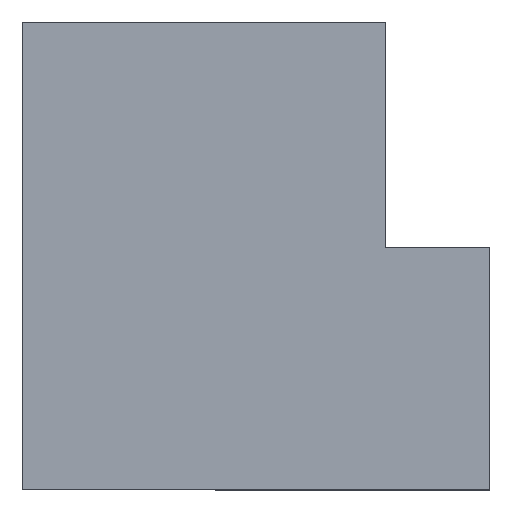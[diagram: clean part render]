
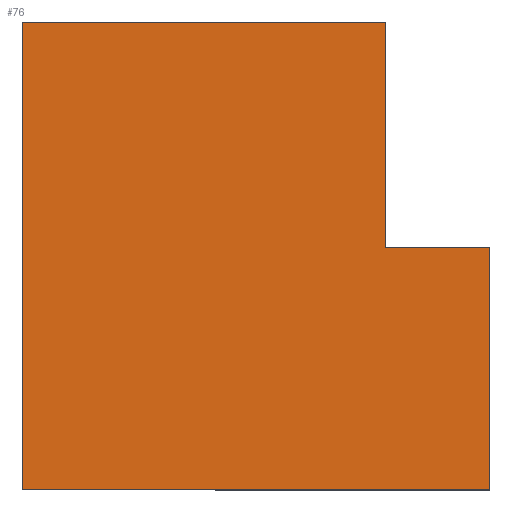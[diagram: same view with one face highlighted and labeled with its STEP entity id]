
A CAD part, top view. The second image highlights one B-rep face of the part: STEP entity #76.
In plain terms, the highlighted planar face has unit normal (0, 0, 1).
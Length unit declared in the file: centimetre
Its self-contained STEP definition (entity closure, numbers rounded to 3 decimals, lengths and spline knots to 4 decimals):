
#2 = EDGE_LOOP ( 'NONE', ( #174, #39, #261, #333, #250, #499 ) ) ;
#13 = LINE ( 'NONE', #164, #322 ) ;
#39 = ORIENTED_EDGE ( 'NONE', *, *, #142, .T. ) ;
#47 = CARTESIAN_POINT ( 'NONE',  ( 1000., 0., 1000. ) ) ;
#50 = PLANE ( 'NONE',  #394 ) ;
#66 = VECTOR ( 'NONE', #307, 100. ) ;
#76 = ADVANCED_FACE ( 'NONE', ( #480 ), #50, .T. ) ;
#81 = CARTESIAN_POINT ( 'NONE',  ( 1000., 518.5311, 1000. ) ) ;
#82 = CARTESIAN_POINT ( 'NONE',  ( 777.1425, 518.5311, 1000. ) ) ;
#94 = DIRECTION ( 'NONE',  ( 0., 0., 1. ) ) ;
#104 = VERTEX_POINT ( 'NONE', #436 ) ;
#116 = VERTEX_POINT ( 'NONE', #81 ) ;
#142 = EDGE_CURVE ( 'NONE', #377, #191, #287, .T. ) ;
#155 = VECTOR ( 'NONE', #183, 100. ) ;
#164 = CARTESIAN_POINT ( 'NONE',  ( 0., 1000., 1000. ) ) ;
#174 = ORIENTED_EDGE ( 'NONE', *, *, #487, .T. ) ;
#183 = DIRECTION ( 'NONE',  ( -1., 0., 0. ) ) ;
#191 = VERTEX_POINT ( 'NONE', #334 ) ;
#199 = CARTESIAN_POINT ( 'NONE',  ( 1000., 1000., 1000. ) ) ;
#202 = DIRECTION ( 'NONE',  ( 1., 0., 0. ) ) ;
#204 = VERTEX_POINT ( 'NONE', #47 ) ;
#205 = LINE ( 'NONE', #362, #251 ) ;
#208 = EDGE_CURVE ( 'NONE', #264, #116, #209, .T. ) ;
#209 = LINE ( 'NONE', #275, #282 ) ;
#210 = DIRECTION ( 'NONE',  ( 0., 1., 0. ) ) ;
#212 = EDGE_CURVE ( 'NONE', #104, #204, #365, .T. ) ;
#230 = DIRECTION ( 'NONE',  ( 1., 0., 0. ) ) ;
#250 = ORIENTED_EDGE ( 'NONE', *, *, #329, .T. ) ;
#251 = VECTOR ( 'NONE', #210, 100. ) ;
#252 = CARTESIAN_POINT ( 'NONE',  ( 0., 1000., 1000. ) ) ;
#261 = ORIENTED_EDGE ( 'NONE', *, *, #279, .T. ) ;
#264 = VERTEX_POINT ( 'NONE', #82 ) ;
#275 = CARTESIAN_POINT ( 'NONE',  ( 1000., 518.5311, 1000. ) ) ;
#279 = EDGE_CURVE ( 'NONE', #191, #104, #13, .T. ) ;
#282 = VECTOR ( 'NONE', #230, 100. ) ;
#287 = LINE ( 'NONE', #252, #155 ) ;
#296 = CARTESIAN_POINT ( 'NONE',  ( 777.1425, 1000., 1000. ) ) ;
#307 = DIRECTION ( 'NONE',  ( 1., 0., 0. ) ) ;
#322 = VECTOR ( 'NONE', #476, 100. ) ;
#329 = EDGE_CURVE ( 'NONE', #204, #116, #471, .T. ) ;
#333 = ORIENTED_EDGE ( 'NONE', *, *, #212, .T. ) ;
#334 = CARTESIAN_POINT ( 'NONE',  ( 0., 1000., 1000. ) ) ;
#354 = CARTESIAN_POINT ( 'NONE',  ( 0., 0., 1000. ) ) ;
#362 = CARTESIAN_POINT ( 'NONE',  ( 777.1425, 518.5311, 1000. ) ) ;
#365 = LINE ( 'NONE', #354, #66 ) ;
#377 = VERTEX_POINT ( 'NONE', #296 ) ;
#394 = AXIS2_PLACEMENT_3D ( 'NONE', #473, #94, #202 ) ;
#436 = CARTESIAN_POINT ( 'NONE',  ( 0., 0., 1000. ) ) ;
#471 = LINE ( 'NONE', #199, #491 ) ;
#473 = CARTESIAN_POINT ( 'NONE',  ( 0., 0., 1000. ) ) ;
#476 = DIRECTION ( 'NONE',  ( 0., -1., 0. ) ) ;
#480 = FACE_OUTER_BOUND ( 'NONE', #2, .T. ) ;
#487 = EDGE_CURVE ( 'NONE', #264, #377, #205, .T. ) ;
#491 = VECTOR ( 'NONE', #495, 100. ) ;
#495 = DIRECTION ( 'NONE',  ( 0., 1., 0. ) ) ;
#499 = ORIENTED_EDGE ( 'NONE', *, *, #208, .F. ) ;
